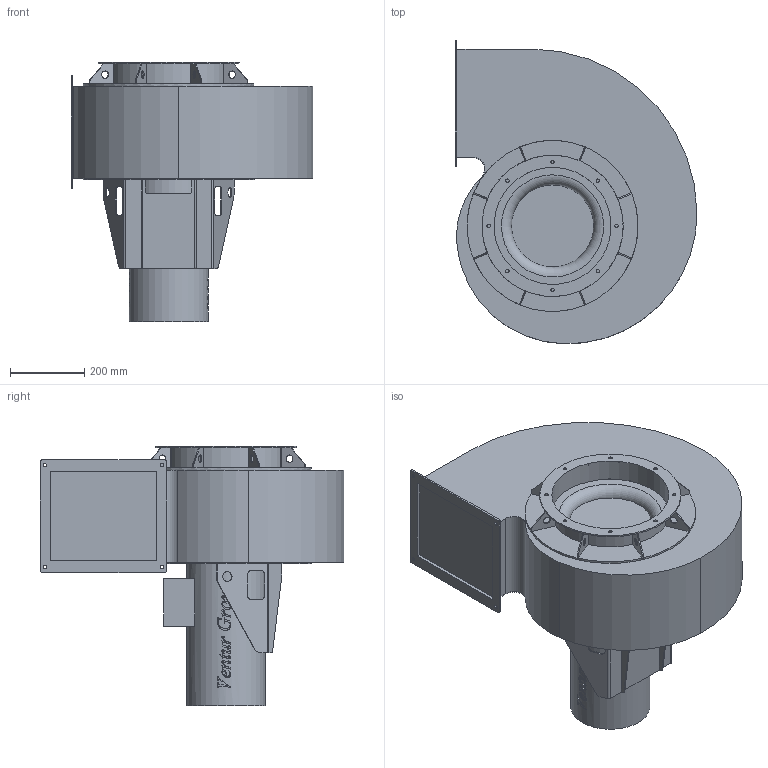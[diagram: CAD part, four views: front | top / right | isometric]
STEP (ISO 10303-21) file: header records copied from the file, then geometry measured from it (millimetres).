
FILE_DESCRIPTION(/* description */ (''),/* implementation_level */ '2;1');
FILE_NAME(/* name */ 'E:\Mariusz\Modele uproszczone\GMT-K\GMT-K_700_750T RD90 43552375\GMT-K_700_750T RD90 43552375\GMT-K_700_750T RD90 43552375.stp',/* time_stamp */ '2018-07-18T16:30:11+02:00',/* author */ ('M.Janczarek'),/* organization */ (''),/* preprocessor_version */ 'ST-DEVELOPER v16.5',/* originating_system */ 'Autodesk Inventor 2017',/* authorisation */ '');
FILE_SCHEMA (('AUTOMOTIVE_DESIGN { 1 0 10303 214 3 1 1 }'));
Length unit declared in the file: millimetre
Products named in the file (1): GMT-K_700_750T RD90 43552375
Bounding box: 651.19 x 816.99 x 697.6 mm (x, y, z)
Volume: 119187729.8 mm3; surface area: 2300755.6 mm2
Topology: 1 solids, 1 shells, 748 faces, 2059 edges, 1344 vertices
Faces by surface type: bspline 410, plane 231, cylinder 106, torus 1
Full cylindrical faces by diameter (mm): 9.2 x12, 20 x8, 27 x2, 212.9 x1, 315 x1, 321 x1, 380 x1, 460 x2
Entity records: 31130 total; most frequent: CARTESIAN_POINT 14145, ORIENTED_EDGE 4068, DIRECTION 2324, EDGE_CURVE 2026, VERTEX_POINT 1341, LINE 992, VECTOR 992, EDGE_LOOP 867
